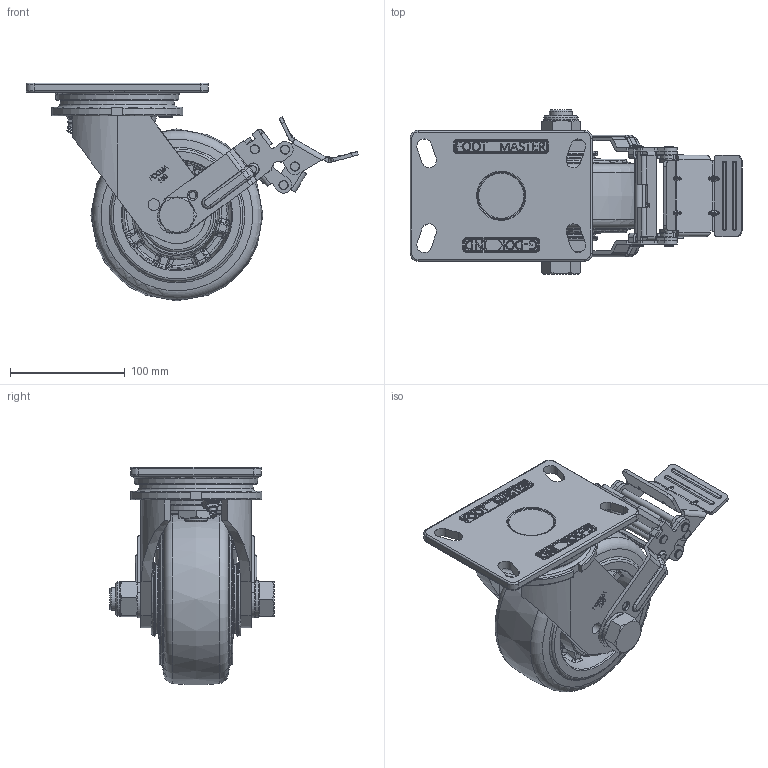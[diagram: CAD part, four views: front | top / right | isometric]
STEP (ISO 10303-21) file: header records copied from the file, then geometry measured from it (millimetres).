
FILE_DESCRIPTION(/* description */ (''),/* implementation_level */ '2;1');
FILE_NAME(/* name */ '\\192.168.10.38\지덕공유\1.기술연구소\손동원\GF-SERIES\3D\GF-150-BSF-MUD.stp',/* time_stamp */ '2023-07-25T14:02:03+09:00',/* author */ ('admin'),/* organization */ (''),/* preprocessor_version */ 'ST-DEVELOPER v18.1',/* originating_system */ 'Autodesk Inventor 2021',/* authorisation */ '');
FILE_SCHEMA (('AUTOMOTIVE_DESIGN { 1 0 10303 214 3 1 1 }'));
Products named in the file (1): GF-150-BSF-MUD
Bounding box: 289.34 x 143 x 189.84 mm (x, y, z)
Volume: 1554580.3 mm3; surface area: 241274.2 mm2
Topology: 7 solids, 7 shells, 2459 faces, 6458 edges, 3991 vertices
Faces by surface type: bspline 838, plane 758, cylinder 604, torus 178, cone 65, sphere 16
Full cylindrical faces by diameter (mm): 4 x4, 6 x5, 6.2 x18, 7 x2, 8 x8, 9.7 x2, 10 x4, 20 x4, 20.2 x4, 24.9 x2, 30 x1, 34 x2, 43 x2, 59 x1, 64.519 x2
Entity records: 116381 total; most frequent: CARTESIAN_POINT 60186, ORIENTED_EDGE 12764, DIRECTION 10241, EDGE_CURVE 6382, VERTEX_POINT 4000, AXIS2_PLACEMENT_3D 3761, LINE 2719, VECTOR 2719
